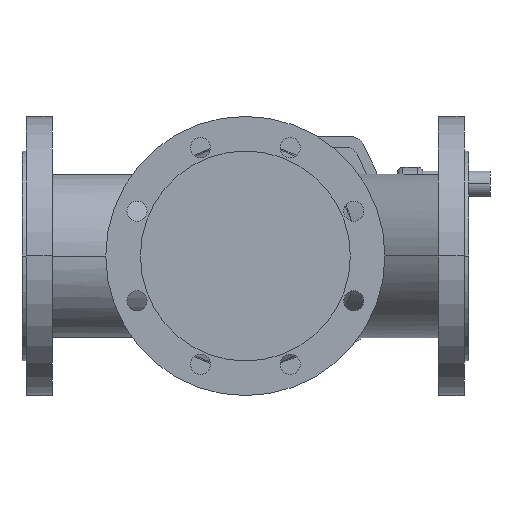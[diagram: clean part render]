
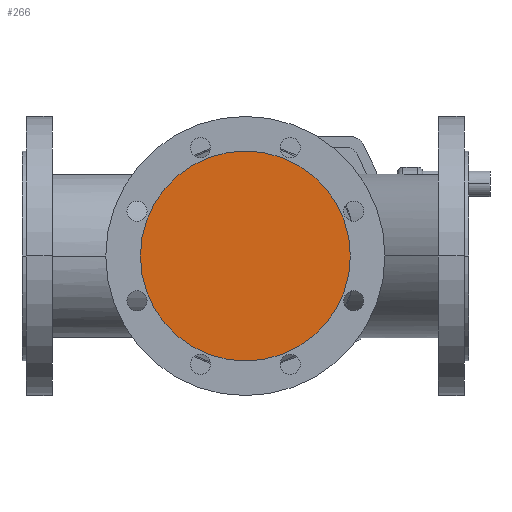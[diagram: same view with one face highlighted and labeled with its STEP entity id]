
A CAD part, front view. The second image highlights one B-rep face of the part: STEP entity #266.
In plain terms, the highlighted planar face has unit normal (0, -1, 0).
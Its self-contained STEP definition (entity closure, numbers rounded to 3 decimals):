
#266 = ADVANCED_FACE( '', ( #735 ), #736, .T. );
#735 = FACE_OUTER_BOUND( '', #1348, .T. );
#736 = PLANE( '', #1349 );
#1348 = EDGE_LOOP( '', ( #2761, #2762 ) );
#1349 = AXIS2_PLACEMENT_3D( '', #2763, #2764, #2765 );
#2761 = ORIENTED_EDGE( '', *, *, #3824, .F. );
#2762 = ORIENTED_EDGE( '', *, *, #4166, .F. );
#2763 = CARTESIAN_POINT( '', ( 247., -200., 0. ) );
#2764 = DIRECTION( '', ( 0., -1., 0. ) );
#2765 = DIRECTION( '', ( -1., 0., 0. ) );
#3824 = EDGE_CURVE( '', #4541, #4544, #4545, .T. );
#4166 = EDGE_CURVE( '', #4544, #4541, #5108, .T. );
#4541 = VERTEX_POINT( '', #5881 );
#4544 = VERTEX_POINT( '', #5885 );
#4545 = CIRCLE( '', #5886, 94. );
#5108 = CIRCLE( '', #7196, 94. );
#5881 = CARTESIAN_POINT( '', ( 294., -200., 0. ) );
#5885 = CARTESIAN_POINT( '', ( 106., -200., 0. ) );
#5886 = AXIS2_PLACEMENT_3D( '', #7943, #7944, #7945 );
#7196 = AXIS2_PLACEMENT_3D( '', #8635, #8636, #8637 );
#7943 = CARTESIAN_POINT( '', ( 200., -200., 0. ) );
#7944 = DIRECTION( '', ( 0., 1., 0. ) );
#7945 = DIRECTION( '', ( 1., 0., 0. ) );
#8635 = CARTESIAN_POINT( '', ( 200., -200., 0. ) );
#8636 = DIRECTION( '', ( 0., 1., 0. ) );
#8637 = DIRECTION( '', ( 1., 0., 0. ) );
